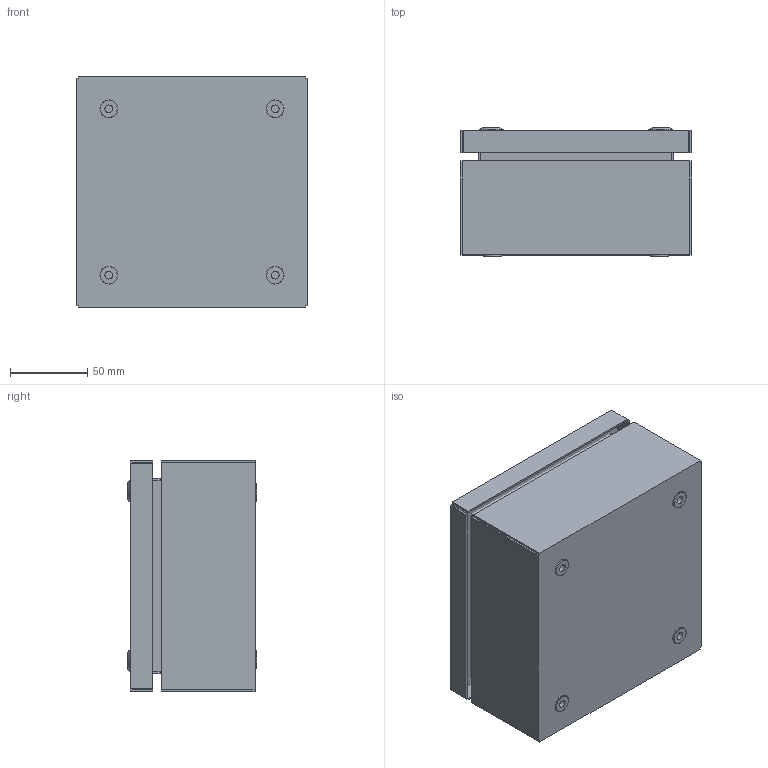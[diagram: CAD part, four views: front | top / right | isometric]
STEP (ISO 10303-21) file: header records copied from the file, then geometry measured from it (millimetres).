
FILE_DESCRIPTION(('Open CASCADE Model'),'2;1');
FILE_NAME('Open CASCADE Shape Model','2025-11-12T17:51:50',('Author'),( 'Open CASCADE'),'Open CASCADE STEP processor 7.8','Open CASCADE 7.8' ,'Unknown');
FILE_SCHEMA(('AUTOMOTIVE_DESIGN { 1 0 10303 214 1 1 1 1 }'));
Length unit declared in the file: millimetre
Products named in the file (16): Compound1; Compound2; Compound3; Solid1; Solid2; Solid3; Solid4; Solid5; Compound4; Compound5; Solid6; Solid7; Solid8; Solid9; Solid10; Solid11
Assembly tree (31 placements, depth 5):
  Compound1
    Compound2
      Compound3
        Solid1
        Solid2  x2
        Solid3  x2
        Solid4  x2
        Solid5
      Compound4
        Compound5
          Solid6
          Solid5
        Solid7
      Solid8  x4
      Solid9  x4
      Solid10  x4
    Solid11  x4
Bounding box: 150 x 83.79 x 150 mm (x, y, z)
Volume: 203118.1 mm3; surface area: 281250.3 mm2
Topology: 27 solids, 27 shells, 908 faces, 2444 edges, 1616 vertices
Faces by surface type: plane 668, cylinder 126, cone 46, bspline 32, torus 28, sphere 8
Full cylindrical faces by diameter (mm): 4 x10, 4.134 x4, 5 x8, 5.2 x4, 5.3 x4, 5.5 x4, 6 x2, 6.5 x4, 7.5 x6, 8 x8, 8.5 x4, 11.5 x4, 13.5 x4, 15.791 x4
Entity records: 14803 total; most frequent: CARTESIAN_POINT 4225, ORIENTED_EDGE 2214, DIRECTION 2004, EDGE_CURVE 1107, LINE 766, VECTOR 766, VERTEX_POINT 732, AXIS2_PLACEMENT_3D 619
